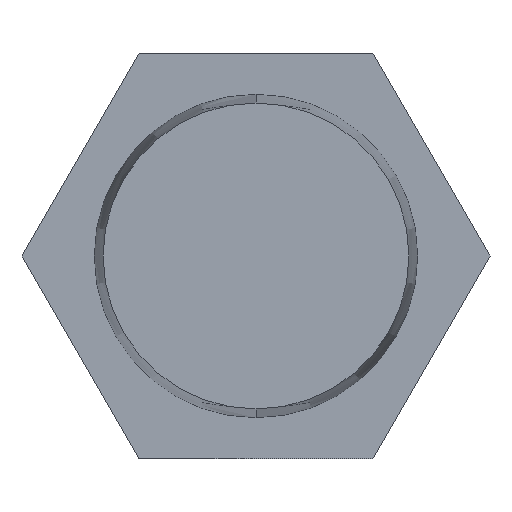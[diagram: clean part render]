
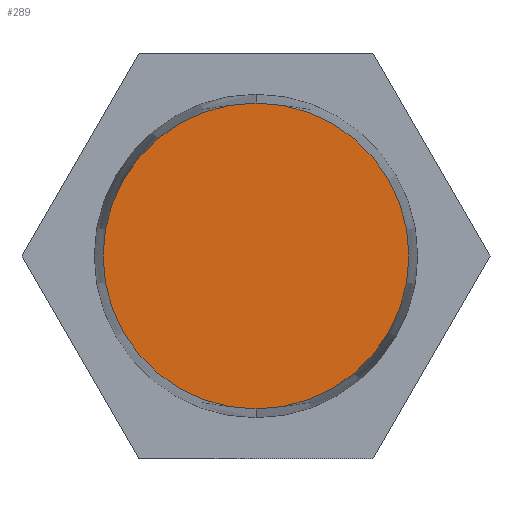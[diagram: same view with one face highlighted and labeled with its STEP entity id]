
A CAD part, front view. The second image highlights one B-rep face of the part: STEP entity #289.
In plain terms, the highlighted planar face has unit normal (0, -1, 0).
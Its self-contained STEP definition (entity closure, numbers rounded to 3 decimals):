
#83 = PLANE ( 'NONE',  #727 ) ;
#120 = EDGE_CURVE ( 'NONE', #800, #172, #694, .T. ) ;
#122 = DIRECTION ( 'NONE',  ( 0., 0., 1. ) ) ;
#172 = VERTEX_POINT ( 'NONE', #206 ) ;
#206 = CARTESIAN_POINT ( 'NONE',  ( 0., -4.7, 6.414 ) ) ;
#222 = FACE_OUTER_BOUND ( 'NONE', #798, .T. ) ;
#264 = CARTESIAN_POINT ( 'NONE',  ( 0., -4.7, -6.414 ) ) ;
#289 = ADVANCED_FACE ( 'NONE', ( #222 ), #83, .F. ) ;
#372 = AXIS2_PLACEMENT_3D ( 'NONE', #575, #433, #122 ) ;
#414 = CARTESIAN_POINT ( 'NONE',  ( 0., -4.7, 0. ) ) ;
#433 = DIRECTION ( 'NONE',  ( 0., 1., 0. ) ) ;
#457 = CARTESIAN_POINT ( 'NONE',  ( 0., -4.7, 0. ) ) ;
#514 = DIRECTION ( 'NONE',  ( 0., 0., 1. ) ) ;
#575 = CARTESIAN_POINT ( 'NONE',  ( 0., -4.7, 0. ) ) ;
#644 = ORIENTED_EDGE ( 'NONE', *, *, #766, .F. ) ;
#694 = CIRCLE ( 'NONE', #372, 6.414 ) ;
#727 = AXIS2_PLACEMENT_3D ( 'NONE', #457, #757, #514 ) ;
#730 = DIRECTION ( 'NONE',  ( 0., 1., 0. ) ) ;
#757 = DIRECTION ( 'NONE',  ( 0., 1., 0. ) ) ;
#766 = EDGE_CURVE ( 'NONE', #172, #800, #860, .T. ) ;
#798 = EDGE_LOOP ( 'NONE', ( #644, #907 ) ) ;
#800 = VERTEX_POINT ( 'NONE', #264 ) ;
#860 = CIRCLE ( 'NONE', #893, 6.414 ) ;
#893 = AXIS2_PLACEMENT_3D ( 'NONE', #414, #730, #944 ) ;
#907 = ORIENTED_EDGE ( 'NONE', *, *, #120, .F. ) ;
#944 = DIRECTION ( 'NONE',  ( 0., 0., 1. ) ) ;
